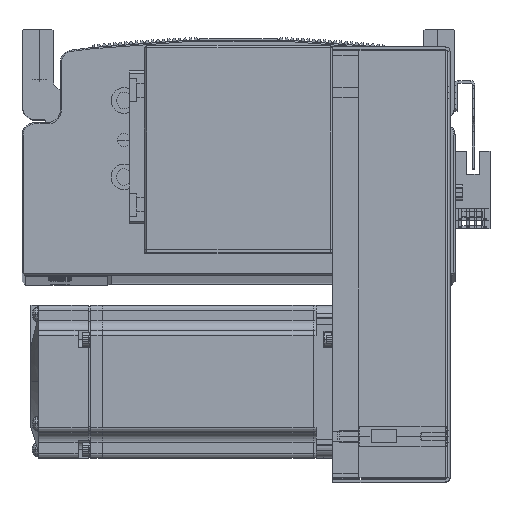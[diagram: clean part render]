
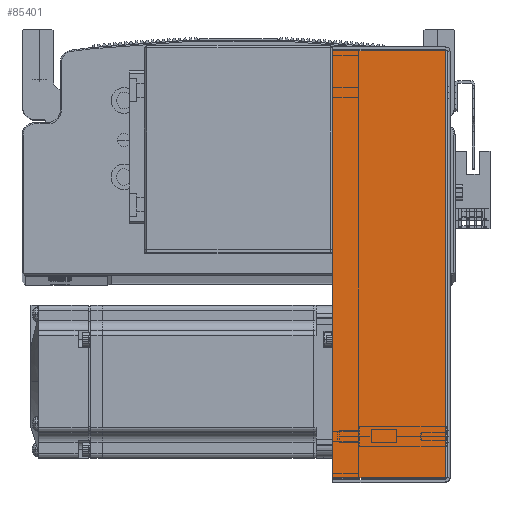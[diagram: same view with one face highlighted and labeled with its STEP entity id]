
A CAD part, top view. The second image highlights one B-rep face of the part: STEP entity #85401.
In plain terms, the highlighted planar face has unit normal (0, 0, 1) as drawn and (0, 0, -1) by its records, which use the part's own axes.
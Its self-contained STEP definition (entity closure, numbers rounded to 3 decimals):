
#4100 = FACE_OUTER_BOUND ( 'NONE', #45777, .T. ) ;
#7279 = AXIS2_PLACEMENT_3D ( 'NONE', #15698, #15690, #15678 ) ;
#15661 = PLANE ( 'NONE',  #7279 ) ;
#15678 = DIRECTION ( 'NONE',  ( 0., -1., 0. ) ) ;
#15690 = DIRECTION ( 'NONE',  ( 0., 0., 1. ) ) ;
#15698 = CARTESIAN_POINT ( 'NONE',  ( 0., 0., -40.5 ) ) ;
#19293 = VECTOR ( 'NONE', #82316, 1000. ) ;
#19311 = LINE ( 'NONE', #82301, #19315 ) ;
#19315 = VECTOR ( 'NONE', #82299, 1000. ) ;
#19321 = LINE ( 'NONE', #82305, #19293 ) ;
#19464 = LINE ( 'NONE', #82533, #19524 ) ;
#19493 = LINE ( 'NONE', #82567, #19570 ) ;
#19524 = VECTOR ( 'NONE', #82529, 1000. ) ;
#19570 = VECTOR ( 'NONE', #82565, 1000. ) ;
#45777 = EDGE_LOOP ( 'NONE', ( #78386, #78343, #78337, #78344 ) ) ;
#48395 = CARTESIAN_POINT ( 'NONE',  ( 83.793, 0.737, -40.5 ) ) ;
#48443 = CARTESIAN_POINT ( 'NONE',  ( -83.793, 0.737, -40.5 ) ) ;
#49098 = CARTESIAN_POINT ( 'NONE',  ( 83.793, 45., -40.5 ) ) ;
#50759 = CARTESIAN_POINT ( 'NONE',  ( -83.793, 45., -40.5 ) ) ;
#55424 = VERTEX_POINT ( 'NONE', #48395 ) ;
#55473 = VERTEX_POINT ( 'NONE', #48443 ) ;
#56900 = VERTEX_POINT ( 'NONE', #50759 ) ;
#57383 = VERTEX_POINT ( 'NONE', #49098 ) ;
#59480 = EDGE_CURVE ( 'NONE', #55473, #55424, #19311, .T. ) ;
#59481 = EDGE_CURVE ( 'NONE', #56900, #57383, #19321, .T. ) ;
#59520 = EDGE_CURVE ( 'NONE', #55424, #57383, #19464, .T. ) ;
#59527 = EDGE_CURVE ( 'NONE', #55473, #56900, #19493, .T. ) ;
#78337 = ORIENTED_EDGE ( 'NONE', *, *, #59481, .T. ) ;
#78343 = ORIENTED_EDGE ( 'NONE', *, *, #59527, .T. ) ;
#78344 = ORIENTED_EDGE ( 'NONE', *, *, #59520, .F. ) ;
#78386 = ORIENTED_EDGE ( 'NONE', *, *, #59480, .F. ) ;
#82299 = DIRECTION ( 'NONE',  ( 1., 0., 0. ) ) ;
#82301 = CARTESIAN_POINT ( 'NONE',  ( 0., 0.737, -40.5 ) ) ;
#82305 = CARTESIAN_POINT ( 'NONE',  ( 84.5, 45., -40.5 ) ) ;
#82316 = DIRECTION ( 'NONE',  ( 1., 0., 0. ) ) ;
#82529 = DIRECTION ( 'NONE',  ( 0., 1., 0. ) ) ;
#82533 = CARTESIAN_POINT ( 'NONE',  ( 83.793, 0., -40.5 ) ) ;
#82565 = DIRECTION ( 'NONE',  ( 0., 1., 0. ) ) ;
#82567 = CARTESIAN_POINT ( 'NONE',  ( -83.793, 0., -40.5 ) ) ;
#85401 = ADVANCED_FACE ( 'NONE', ( #4100 ), #15661, .F. ) ;
